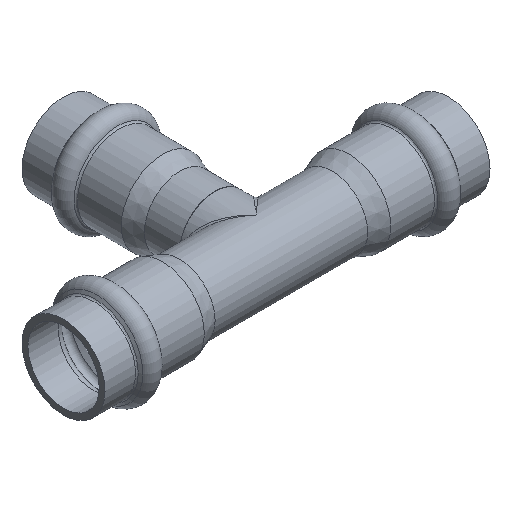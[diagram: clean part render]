
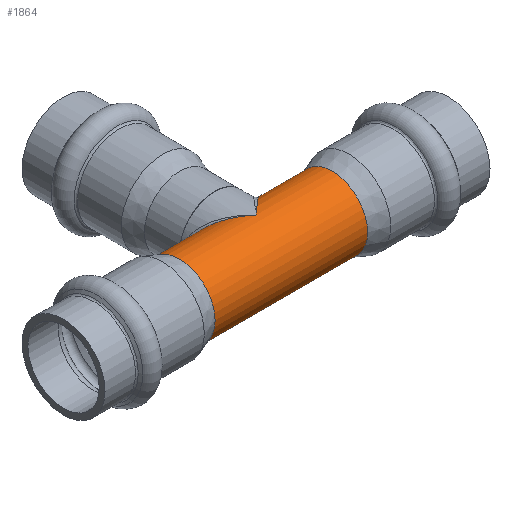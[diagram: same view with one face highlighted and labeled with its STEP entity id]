
A CAD part, isometric view. The second image highlights one B-rep face of the part: STEP entity #1864.
In plain terms, the highlighted cylindrical face has radius 9 mm (diameter 18 mm), a full revolution.
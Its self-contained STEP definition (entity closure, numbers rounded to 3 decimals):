
#1157=CARTESIAN_POINT('',(-49.0,0.,9.0));
#1158=VERTEX_POINT('',#1157);
#1159=CARTESIAN_POINT('',(-49.0,0.,-9.0));
#1160=VERTEX_POINT('',#1159);
#1161=CARTESIAN_POINT('',(-49.0,0.,0.0));
#1162=DIRECTION('',(-0.669,0.743,0.));
#1163=DIRECTION('',(0.743,0.669,0.0));
#1164=AXIS2_PLACEMENT_3D('',#1161,#1162,#1163);
#1165=ELLIPSE('',#1164,13.454,9.);
#1166=EDGE_CURVE('',#1158,#1160,#1165,.T.);
#1323=CARTESIAN_POINT('',(-49.0,0.,0.0));
#1324=DIRECTION('',(0.669,0.743,0.));
#1325=DIRECTION('',(-0.743,0.669,0.0));
#1326=AXIS2_PLACEMENT_3D('',#1323,#1324,#1325);
#1327=ELLIPSE('',#1326,13.454,9.);
#1328=EDGE_CURVE('',#1160,#1158,#1327,.T.);
#1826=CARTESIAN_POINT('',(-68.408,9.,0.0));
#1827=VERTEX_POINT('',#1826);
#1828=CARTESIAN_POINT('',(-68.408,0.,0.0));
#1829=DIRECTION('',(1.0,0.0,0.0));
#1830=DIRECTION('',(0.0,1.0,0.0));
#1831=AXIS2_PLACEMENT_3D('',#1828,#1829,#1830);
#1832=CIRCLE('',#1831,9.);
#1833=EDGE_CURVE('',#1827,#1827,#1832,.T.);
#1841=CARTESIAN_POINT('',(-49.0,0.,0.0));
#1842=DIRECTION('',(1.0,0.,0.0));
#1843=DIRECTION('',(0.0,1.0,0.0));
#1844=AXIS2_PLACEMENT_3D('',#1841,#1842,#1843);
#1845=CYLINDRICAL_SURFACE('',#1844,9.);
#1846=ORIENTED_EDGE('',*,*,#1833,.T.);
#1847=EDGE_LOOP('',(#1846));
#1848=FACE_OUTER_BOUND('',#1847,.T.);
#1849=ORIENTED_EDGE('',*,*,#1166,.F.);
#1850=ORIENTED_EDGE('',*,*,#1328,.F.);
#1851=EDGE_LOOP('',(#1849,#1850));
#1852=FACE_BOUND('',#1851,.T.);
#1853=CARTESIAN_POINT('',(-29.592,9.0,0.0));
#1854=VERTEX_POINT('',#1853);
#1855=CARTESIAN_POINT('',(-29.592,0.,0.0));
#1856=DIRECTION('',(1.0,0.0,0.0));
#1857=DIRECTION('',(0.0,1.0,0.0));
#1858=AXIS2_PLACEMENT_3D('',#1855,#1856,#1857);
#1859=CIRCLE('',#1858,9.);
#1860=EDGE_CURVE('',#1854,#1854,#1859,.T.);
#1861=ORIENTED_EDGE('',*,*,#1860,.F.);
#1862=EDGE_LOOP('',(#1861));
#1863=FACE_BOUND('',#1862,.T.);
#1864=ADVANCED_FACE('',(#1848,#1852,#1863),#1845,.T.);
